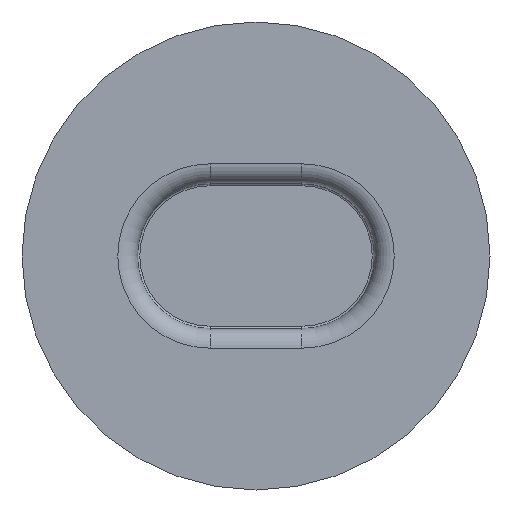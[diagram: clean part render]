
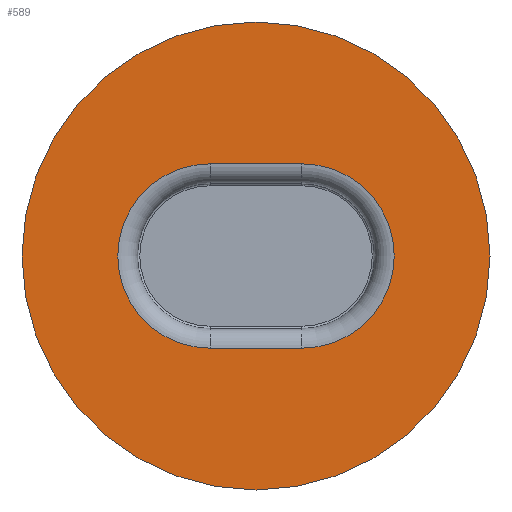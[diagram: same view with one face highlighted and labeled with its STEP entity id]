
A CAD part, front view. The second image highlights one B-rep face of the part: STEP entity #589.
In plain terms, the highlighted planar face has unit normal (0, -1, 0).
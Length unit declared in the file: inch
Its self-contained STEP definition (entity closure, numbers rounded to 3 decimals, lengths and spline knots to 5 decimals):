
#10 = VERTEX_POINT ( 'NONE', #655 ) ;
#14 = EDGE_CURVE ( 'NONE', #10, #820, #371, .T. ) ;
#34 = PLANE ( 'NONE',  #743 ) ;
#52 = LINE ( 'NONE', #181, #225 ) ;
#70 = CARTESIAN_POINT ( 'NONE',  ( -0.1965, -0.074, -0.394 ) ) ;
#77 = ORIENTED_EDGE ( 'NONE', *, *, #251, .F. ) ;
#103 = FACE_OUTER_BOUND ( 'NONE', #133, .T. ) ;
#117 = DIRECTION ( 'NONE',  ( 0., 0., -1. ) ) ;
#133 = EDGE_LOOP ( 'NONE', ( #238, #279 ) ) ;
#167 = EDGE_CURVE ( 'NONE', #820, #10, #241, .T. ) ;
#172 = CARTESIAN_POINT ( 'NONE',  ( -0.1965, -0.074, 0. ) ) ;
#175 = CARTESIAN_POINT ( 'NONE',  ( 0., -0.074, 0. ) ) ;
#181 = CARTESIAN_POINT ( 'NONE',  ( 0., -0.074, -0.394 ) ) ;
#225 = VECTOR ( 'NONE', #718, 39.37008 ) ;
#236 = EDGE_CURVE ( 'NONE', #744, #334, #345, .T. ) ;
#238 = ORIENTED_EDGE ( 'NONE', *, *, #167, .T. ) ;
#241 = CIRCLE ( 'NONE', #845, 1. ) ;
#246 = DIRECTION ( 'NONE',  ( 0., -1., 0. ) ) ;
#251 = EDGE_CURVE ( 'NONE', #334, #833, #398, .T. ) ;
#254 = DIRECTION ( 'NONE',  ( 0., -1., 0. ) ) ;
#279 = ORIENTED_EDGE ( 'NONE', *, *, #14, .T. ) ;
#323 = CARTESIAN_POINT ( 'NONE',  ( 0., -0.074, -1. ) ) ;
#334 = VERTEX_POINT ( 'NONE', #747 ) ;
#345 = CIRCLE ( 'NONE', #419, 0.394 ) ;
#371 = CIRCLE ( 'NONE', #427, 1. ) ;
#398 = LINE ( 'NONE', #749, #694 ) ;
#411 = DIRECTION ( 'NONE',  ( -1., 0., 0. ) ) ;
#419 = AXIS2_PLACEMENT_3D ( 'NONE', #463, #723, #815 ) ;
#425 = EDGE_LOOP ( 'NONE', ( #751, #77, #770, #622 ) ) ;
#427 = AXIS2_PLACEMENT_3D ( 'NONE', #175, #246, #117 ) ;
#444 = DIRECTION ( 'NONE',  ( 0., -1., 0. ) ) ;
#451 = DIRECTION ( 'NONE',  ( 0., 0., -1. ) ) ;
#458 = VERTEX_POINT ( 'NONE', #70 ) ;
#463 = CARTESIAN_POINT ( 'NONE',  ( 0.1965, -0.074, 0. ) ) ;
#489 = CIRCLE ( 'NONE', #596, 0.394 ) ;
#518 = DIRECTION ( 'NONE',  ( 0., 0., -1. ) ) ;
#587 = FACE_BOUND ( 'NONE', #425, .T. ) ;
#589 = ADVANCED_FACE ( 'NONE', ( #587, #103 ), #34, .T. ) ;
#596 = AXIS2_PLACEMENT_3D ( 'NONE', #172, #254, #787 ) ;
#603 = CARTESIAN_POINT ( 'NONE',  ( 0.1965, -0.074, -0.394 ) ) ;
#622 = ORIENTED_EDGE ( 'NONE', *, *, #717, .F. ) ;
#655 = CARTESIAN_POINT ( 'NONE',  ( 0., -0.074, 1. ) ) ;
#663 = EDGE_CURVE ( 'NONE', #833, #458, #489, .T. ) ;
#694 = VECTOR ( 'NONE', #411, 39.37008 ) ;
#717 = EDGE_CURVE ( 'NONE', #458, #744, #52, .T. ) ;
#718 = DIRECTION ( 'NONE',  ( 1., 0., 0. ) ) ;
#723 = DIRECTION ( 'NONE',  ( 0., -1., 0. ) ) ;
#734 = CARTESIAN_POINT ( 'NONE',  ( 0., -0.074, 0. ) ) ;
#743 = AXIS2_PLACEMENT_3D ( 'NONE', #776, #444, #518 ) ;
#744 = VERTEX_POINT ( 'NONE', #603 ) ;
#747 = CARTESIAN_POINT ( 'NONE',  ( 0.1965, -0.074, 0.394 ) ) ;
#749 = CARTESIAN_POINT ( 'NONE',  ( 0., -0.074, 0.394 ) ) ;
#751 = ORIENTED_EDGE ( 'NONE', *, *, #663, .F. ) ;
#770 = ORIENTED_EDGE ( 'NONE', *, *, #236, .F. ) ;
#776 = CARTESIAN_POINT ( 'NONE',  ( 0., -0.074, 0. ) ) ;
#787 = DIRECTION ( 'NONE',  ( 0., 0., -1. ) ) ;
#793 = CARTESIAN_POINT ( 'NONE',  ( -0.1965, -0.074, 0.394 ) ) ;
#815 = DIRECTION ( 'NONE',  ( 0., 0., -1. ) ) ;
#820 = VERTEX_POINT ( 'NONE', #323 ) ;
#833 = VERTEX_POINT ( 'NONE', #793 ) ;
#845 = AXIS2_PLACEMENT_3D ( 'NONE', #734, #868, #451 ) ;
#868 = DIRECTION ( 'NONE',  ( 0., -1., 0. ) ) ;
